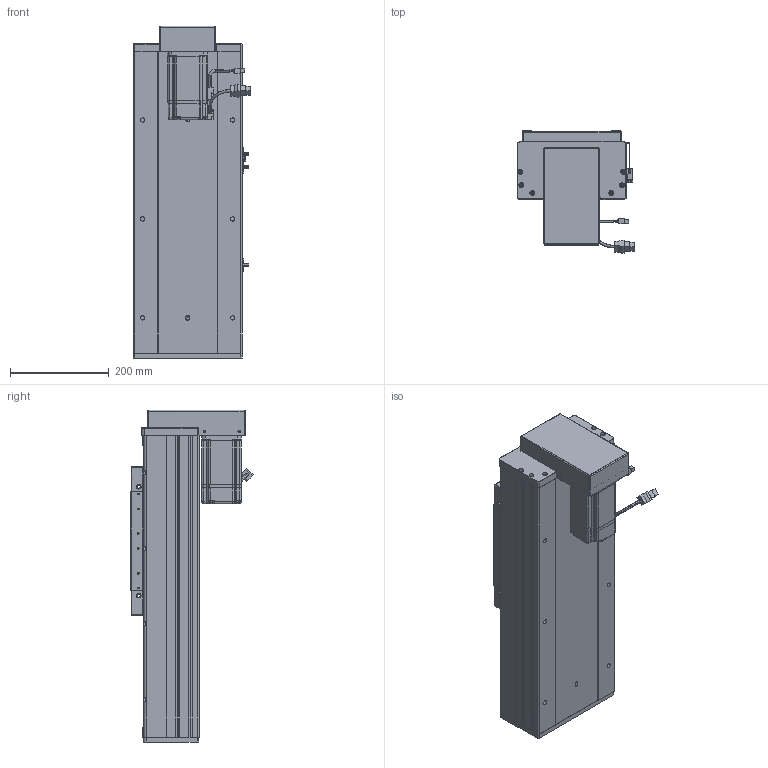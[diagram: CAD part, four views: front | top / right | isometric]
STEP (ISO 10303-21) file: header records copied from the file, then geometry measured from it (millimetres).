
FILE_DESCRIPTION (( 'STEP AP203' ), '1' );
FILE_NAME ('RY220F-L2525-300-BK.SLDASM_200.step', '2022-07-04T01:20:14', ( '' ), ( '' ), 'SwSTEP 2.0', 'SolidWorks 2016', '' );
FILE_SCHEMA (( 'CONFIG_CONTROL_DESIGN' ));
Length unit declared in the file: millimetre
Products named in the file (15): 覜茼ん672; RY220F-滅鳥奻裔; RY220F-672覜茼んえ; RY220F-L2525-300-BK.SLDASM_200; 怢湛750W_ECMA-CX0807ES; RY220狟殏萇儂假蚾啣; 侐源滅袉蝶; RY220F-蛌殏奻裔啣-300_200; RY220F臏賑釱25-32佪裝; RY220F-詩湍揤踡輸; RY220F綴裔啣; RY220F-祥凄詩湍-蛌殏-300_200; 滅袉蝶18-24; RY220狟殏萇儂欶; RY220F蛌殏菁釱-300_200
Assembly tree (21 placements, depth 2):
  RY220F-L2525-300-BK.SLDASM_200
    RY220F蛌殏菁釱-300_200
    RY220F-蛌殏奻裔啣-300_200  x2
    怢湛750W_ECMA-CX0807ES
    RY220F臏賑釱25-32佪裝
    RY220F-滅鳥奻裔
    滅袉蝶18-24  x3
    RY220F綴裔啣
    RY220F-祥凄詩湍-蛌殏-300_200
    RY220F-詩湍揤踡輸  x2
    覜茼ん672  x3
    RY220F-672覜茼んえ
    侐源滅袉蝶  x2
    RY220狟殏萇儂假蚾啣
    RY220狟殏萇儂欶
Bounding box: 237.27 x 247.24 x 671 mm (x, y, z)
Volume: 7336383.9 mm3; surface area: 1854457.4 mm2
Topology: 22 solids, 22 shells, 2117 faces, 5774 edges, 3639 vertices
Faces by surface type: cylinder 916, plane 906, cone 228, bspline 41, sphere 16, torus 10
Entity records: 64645 total; most frequent: CARTESIAN_POINT 18016, ORIENTED_EDGE 9506, DIRECTION 9047, EDGE_CURVE 4753, AXIS2_PLACEMENT_3D 3163, VERTEX_POINT 3081, VECTOR 2721, LINE 2721
